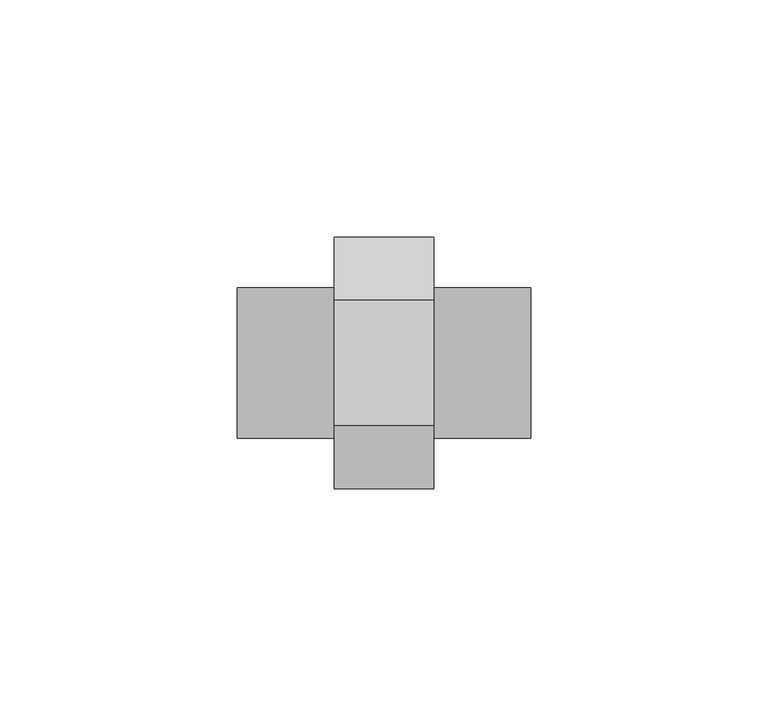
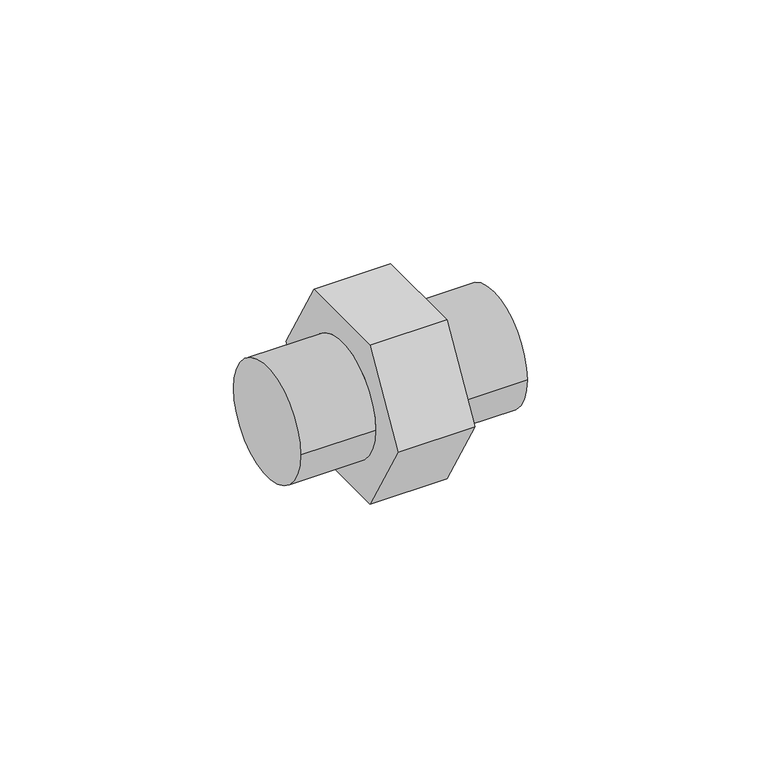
"""IFC4 building model written with IfcOpenShell, lengths in millimetres: pipe fitting geometry, 01011009 : Machones doble rosca."""

import ifcopenshell
import ifcopenshell.guid

model = None  # the IFC model being written
_history = None  # IfcOwnerHistory: only IFC2X3 demands one
_inside = {}  # id of a spatial element -> (the spatial element, [elements in it])
_under = {}  # id of a project, library or spatial element -> (it, [spatial elements below it])
_declared = {}  # id of a project -> (the project, [libraries it declares])
_typed = {}  # id of a type object -> (the type object, [elements of that type])
_made_of = {}  # id of a material, layer set ... -> (it, [elements and type objects made of it])


def new_model(schema):
    """Start an empty IFC model of exactly this schema.

    Asked for "IFC4X3", IfcOpenShell would pick the latest addendum, in which some entities
    have other attributes; the version numbers below select the first issue.
    IFC2X3 requires an IfcOwnerHistory on every rooted entity: one is made here for all.
    """
    global model, _history
    if schema == "IFC4X3":
        model = ifcopenshell.file(schema_version=(4, 3, 0, 0))
    else:
        model = ifcopenshell.file(schema=schema)
    _inside.clear()
    _under.clear()
    _declared.clear()
    _typed.clear()
    _made_of.clear()
    _history = None
    if model.schema == "IFC2X3":
        org = make("IfcOrganization", Name="unknown")
        user = make(
            "IfcPersonAndOrganization",
            ThePerson=make("IfcPerson", FamilyName="unknown"),
            TheOrganization=org,
        )
        app = make(
            "IfcApplication",
            ApplicationDeveloper=org,
            Version="unknown",
            ApplicationFullName="unknown",
            ApplicationIdentifier="unknown",
        )
        _history = make(
            "IfcOwnerHistory",
            OwningUser=user,
            OwningApplication=app,
            ChangeAction="ADDED",
            CreationDate=0,
        )
    return model


def make(cls, **values):
    """One entity of the class cls with the attributes given. An attribute that is None is left unset."""
    return model.create_entity(
        cls, **{name: value for name, value in values.items() if value is not None}
    )


def rooted(cls, **values):
    """An entity with a GlobalId (a new one), such as an element, a storey or a relation."""
    return make(cls, GlobalId=ifcopenshell.guid.new(), OwnerHistory=_history, **values)


def si_unit(unit_type, name, prefix=None):
    """IfcSIUnit, for example si_unit("LENGTHUNIT", "METRE", prefix="MILLI")."""
    return make("IfcSIUnit", UnitType=unit_type, Prefix=prefix, Name=name)


def assignment(units):
    """IfcUnitAssignment: the units of a project."""
    return None if units is None else make("IfcUnitAssignment", Units=units)


def point(xyz):
    """IfcCartesianPoint."""
    return None if xyz is None else make("IfcCartesianPoint", Coordinates=xyz)


def direction(xyz):
    """IfcDirection."""
    return None if xyz is None else make("IfcDirection", DirectionRatios=xyz)


def frame(location, z_axis=None, x_axis=None):
    """IfcAxis2Placement3D, a coordinate frame: its origin and axes. An axis left out is left unset."""
    return make(
        "IfcAxis2Placement3D",
        Location=point(location),
        Axis=direction(z_axis),
        RefDirection=direction(x_axis),
    )


def origin():
    """The frame at (0, 0, 0) with its axes left unset."""
    return frame((0.0, 0.0, 0.0))


def place(relative_to, where):
    """IfcLocalPlacement: puts the frame where relative to a parent placement (None: the world)."""
    return make(
        "IfcLocalPlacement", PlacementRelTo=relative_to, RelativePlacement=where
    )


def context(
    kind, dimensions, precision=None, world=None, true_north=None, identifier=None
):
    """IfcGeometricRepresentationContext, for example the 3D "Model" context."""
    return make(
        "IfcGeometricRepresentationContext",
        ContextIdentifier=identifier,
        ContextType=kind,
        CoordinateSpaceDimension=dimensions,
        Precision=precision,
        WorldCoordinateSystem=world,
        TrueNorth=true_north,
    )


def project(units=None, contexts=None):
    """IfcProject with its units and contexts."""
    return rooted(
        "IfcProject",
        Name="project",
        RepresentationContexts=contexts,
        UnitsInContext=assignment(units),
    )


def spatial(cls, under=None, at=None, **own):
    """A site, building, storey or space (cls), placed at a placement, below another one or the project."""
    s = rooted(cls, ObjectPlacement=at, **own)
    if under is not None:
        _under.setdefault(under.id(), (under, []))[1].append(s)
    return s


def circle_curve(where, radius):
    """IfcCircle in the frame where."""
    return make("IfcCircle", Position=where, Radius=radius)


def shape(context_of_items, identifier, shape_type, items):
    """IfcShapeRepresentation: the items that make up one representation, for example the "Body"."""
    return make(
        "IfcShapeRepresentation",
        ContextOfItems=context_of_items,
        RepresentationIdentifier=identifier,
        RepresentationType=shape_type,
        Items=items,
    )


def source(mapping_origin, context_of_items, identifier, shape_type, items):
    """IfcRepresentationMap: a shape defined once, which mapped items show again and again."""
    return make(
        "IfcRepresentationMap",
        MappingOrigin=mapping_origin,
        MappedRepresentation=shape(context_of_items, identifier, shape_type, items),
    )


def transform(
    local_origin,
    x_axis=None,
    y_axis=None,
    z_axis=None,
    scale=None,
    scale2=None,
    scale3=None,
    uniform=True,
):
    """IfcCartesianTransformationOperator3D, or its non-uniform kind. x_axis, y_axis, z_axis: its Axis1, 2, 3."""
    if uniform:
        return make(
            "IfcCartesianTransformationOperator3D",
            Axis1=direction(x_axis),
            Axis2=direction(y_axis),
            LocalOrigin=point(local_origin),
            Scale=scale,
            Axis3=direction(z_axis),
        )
    return make(
        "IfcCartesianTransformationOperator3DnonUniform",
        Axis1=direction(x_axis),
        Axis2=direction(y_axis),
        LocalOrigin=point(local_origin),
        Scale=scale,
        Axis3=direction(z_axis),
        Scale2=scale2,
        Scale3=scale3,
    )


def mapped(mapping_source, mapping_target):
    """IfcMappedItem: shows the shape of a source again, moved by a transform."""
    return make(
        "IfcMappedItem", MappingSource=mapping_source, MappingTarget=mapping_target
    )


def made_of(thing, what):
    """Note that an element or type object is made of a material, layer set ...; save() writes the relation."""
    if what is not None:
        _made_of.setdefault(what.id(), (what, []))[1].append(thing)
    return thing


def element(
    cls,
    number,
    at=None,
    inside=None,
    cuts=None,
    type_object=None,
    material=None,
    context=None,
    identifier="Body",
    shape_type=None,
    held_by="IfcProductDefinitionShape",
    body=None,
    shapes=None,
    **own,
):
    """One element of the class cls, such as IfcWall. Its Tag is "e" and its number.

    at: its placement. inside: the storey or other place that contains it. cuts: it is an
    opening in that element (IfcRelVoidsElement). A single representation is given by context,
    identifier, shape_type and body (its items); several are given by shapes. held_by: the class
    of the entity that holds the representations. save() writes the other relations.
    """
    e = rooted(cls, Tag="e%d" % number, ObjectPlacement=at, **own)
    if body is not None:
        shapes = [shape(context, identifier, shape_type, body)]
    if shapes is not None:
        e.Representation = make(held_by, Representations=shapes)
    if inside is not None:
        _inside.setdefault(inside.id(), (inside, []))[1].append(e)
    if cuts is not None:
        rooted(
            "IfcRelVoidsElement", RelatingBuildingElement=cuts, RelatedOpeningElement=e
        )
    if type_object is not None:
        _typed.setdefault(type_object.id(), (type_object, []))[1].append(e)
    return made_of(e, material)


def aggregate(whole, parts):
    """IfcRelAggregates: a whole, such as a stair, and the parts it consists of."""
    return rooted("IfcRelAggregates", RelatingObject=whole, RelatedObjects=parts)


def save(model, path):
    """Write the relations noted so far, then the file.

    IfcRelAggregates (storeys below a building ...), IfcRelContainedInSpatialStructure (elements
    in a storey), IfcRelDefinesByType, IfcRelAssociatesMaterial and IfcRelDeclares: one each for
    every whole, place, type object, material and project.
    """
    for whole, parts in _under.values():
        aggregate(whole, parts)
    for where, things in _inside.values():
        rooted(
            "IfcRelContainedInSpatialStructure",
            RelatedElements=things,
            RelatingStructure=where,
        )
    for kind, things in _typed.values():
        rooted("IfcRelDefinesByType", RelatedObjects=things, RelatingType=kind)
    for what, things in _made_of.values():
        rooted("IfcRelAssociatesMaterial", RelatedObjects=things, RelatingMaterial=what)
    for by, libraries in _declared.values():
        rooted("IfcRelDeclares", RelatingContext=by, RelatedDefinitions=libraries)
    model.write(path)


def plane_surface(at):
    """IfcPlane: the flat surface through the origin of the frame at, square to its z axis."""
    return make("IfcPlane", Position=at)


def cylinder_surface(at, radius):
    """IfcCylindricalSurface: all points at the distance radius from the z axis of the frame at."""
    return make("IfcCylindricalSurface", Position=at, Radius=radius)


def advanced_brep(points, edges, surfaces, faces):
    """IfcAdvancedBrep: a solid bounded by faces that lie on surfaces and meet in shared edges.

    An edge is (start, end): straight between two places in points (the first is 0);
    or (start, end, curve); or (start, end, curve, False) where it runs against its curve.
    A face is (place in surfaces, loops), or (place, loops, False) where it looks against
    its surface's normal. A loop lists edges by number (the first is 1), with a minus sign
    where the edge is run from its end to its start. The first loop is the outer one.
    """
    corners = [point(p) for p in points]
    vertices = [make("IfcVertexPoint", VertexGeometry=c) for c in corners]
    made = []
    for start, end, *more in edges:
        made.append(
            make(
                "IfcEdgeCurve",
                EdgeStart=vertices[start],
                EdgeEnd=vertices[end],
                EdgeGeometry=more[0] if more else make("IfcPolyline", Points=[corners[start], corners[end]]),
                SameSense=more[1] if len(more) > 1 else True,
            )
        )
    hull = []
    for where, loops, *sense in faces:
        bounds = []
        for j, loop in enumerate(loops):
            ring = [make("IfcOrientedEdge", EdgeElement=made[abs(k) - 1], Orientation=k > 0) for k in loop]
            bounds.append(
                make(
                    "IfcFaceOuterBound" if j == 0 else "IfcFaceBound",
                    Bound=make("IfcEdgeLoop", EdgeList=ring),
                    Orientation=True,
                )
            )
        hull.append(make("IfcAdvancedFace", Bounds=bounds, FaceSurface=surfaces[where], SameSense=sense[0] if sense else True))
    return make("IfcAdvancedBrep", Outer=make("IfcClosedShell", CfsFaces=hull))


def pipe_fitting_94711aaa(model_context):
    return source(origin(), model_context, "Body", "AdvancedBrep", [
        advanced_brep(
        [(10.5, -13.2790562, 23.0), (10.5, -26.5581124, 0.0), (10.5, -13.2790562, -23.0), (10.5, 13.2790562, -23.0), (10.5, 26.5581124, 0.0), (10.5, 13.2790562, 23.0), (10.5, -15.875, 0.0), (10.5, 15.875, 0.0), (-10.5, -13.2790562, 23.0), (-10.5, 13.2790562, 23.0), (-10.5, 26.5581124, 0.0), (-10.5, 13.2790562, -23.0), (-10.5, -13.2790562, -23.0), (-10.5, -26.5581124, 0.0), (-10.5, 15.875, 0.0), (-10.5, -15.875, 0.0), (-31.0, -15.875, 0.0), (-31.0, 15.875, 0.0), (31.0, -15.875, 0.0), (31.0, 15.875, 0.0)],
        [
            (0, 1),
            (1, 2),
            (2, 3),
            (3, 4),
            (4, 5),
            (5, 0),
            (6, 7, circle_curve(frame((10.5, 0.0, 0.0), z_axis=(-1.0, 0.0, 0.0), x_axis=(0.0, 1.0, 0.0)), 15.875)),
            (7, 6, circle_curve(frame((10.5, 0.0, 0.0), z_axis=(-1.0, 0.0, 0.0), x_axis=(0.0, 1.0, 0.0)), 15.875)),
            (8, 9),
            (9, 10),
            (10, 11),
            (11, 12),
            (12, 13),
            (13, 8),
            (14, 15, circle_curve(frame((-10.5, 0.0, 0.0), z_axis=(1.0, 0.0, 0.0), x_axis=(0.0, 1.0, 0.0)), 15.875)),
            (15, 14, circle_curve(frame((-10.5, 0.0, 0.0), z_axis=(1.0, 0.0, 0.0), x_axis=(0.0, 1.0, 0.0)), 15.875)),
            (0, 8),
            (13, 1),
            (12, 2),
            (11, 3),
            (10, 4),
            (9, 5),
            (16, 17, circle_curve(frame((-31.0, 0.0, 0.0), z_axis=(-1.0, 0.0, 0.0), x_axis=(0.0, 1.0, 0.0)), 15.875)),
            (17, 16, circle_curve(frame((-31.0, 0.0, 0.0), z_axis=(-1.0, 0.0, 0.0), x_axis=(0.0, 1.0, 0.0)), 15.875)),
            (18, 19, circle_curve(frame((31.0, 0.0, 0.0), z_axis=(1.0, 0.0, 0.0), x_axis=(0.0, 1.0, 0.0)), 15.875)),
            (19, 18, circle_curve(frame((31.0, 0.0, 0.0), z_axis=(1.0, 0.0, 0.0), x_axis=(0.0, 1.0, 0.0)), 15.875)),
            (16, 15),
            (14, 17),
            (19, 7),
            (6, 18),
        ],
        [
            plane_surface(frame((10.5, -13.2790562, 23.0), z_axis=(1.0, 0.0, 0.0), x_axis=(0.0, -0.5000000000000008, -0.8660254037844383))),
            plane_surface(frame((-10.5, -13.2790562, 23.0), z_axis=(-1.0, 0.0, 0.0), x_axis=(0.0, 0.5000000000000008, 0.8660254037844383))),
            plane_surface(frame((10.5, -13.2790562, 23.0), z_axis=(0.0, -0.8660254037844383, 0.5000000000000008), x_axis=(-1.0, 0.0, 0.0))),
            plane_surface(frame((10.5, -26.5581124, 0.0), z_axis=(0.0, -0.8660254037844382, -0.500000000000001), x_axis=(-1.0, 0.0, 0.0))),
            plane_surface(frame((10.5, -13.2790562, -23.0), z_axis=(0.0, 0.0, -1.0), x_axis=(-1.0, 0.0, 0.0))),
            plane_surface(frame((10.5, 13.2790562, -23.0), z_axis=(0.0, 0.8660254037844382, -0.5000000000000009), x_axis=(-1.0, 0.0, 0.0))),
            plane_surface(frame((10.5, 26.5581124, 0.0), z_axis=(0.0, 0.8660254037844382, 0.500000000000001), x_axis=(-1.0, 0.0, 0.0))),
            plane_surface(frame((10.5, 13.2790562, 23.0), z_axis=(0.0, 0.0, 1.0), x_axis=(-1.0, 0.0, 0.0))),
            plane_surface(frame((-31.0, 0.0, 0.0), z_axis=(-1.0, 0.0, 0.0), x_axis=(0.0, 0.0, 1.0))),
            plane_surface(frame((31.0, 0.0, 0.0), z_axis=(1.0, 0.0, 0.0), x_axis=(0.0, 0.0, 1.0))),
            cylinder_surface(frame((-31.0, 0.0, 0.0), z_axis=(-1.0, 0.0, 0.0), x_axis=(0.0, 1.0, 0.0)), 15.875),
        ],
        [
            (0, [[1, 2, 3, 4, 5, 6], [7, 8]]),
            (1, [[9, 10, 11, 12, 13, 14], [15, 16]]),
            (2, [[-1, 17, -14, 18]]),
            (3, [[-2, -18, -13, 19]]),
            (4, [[-3, -19, -12, 20]]),
            (5, [[-4, -20, -11, 21]]),
            (6, [[-5, -21, -10, 22]]),
            (7, [[-6, -22, -9, -17]]),
            (8, [[23, 24]]),
            (9, [[25, 26]]),
            (10, [[-23, 27, -15, 28]]),
            (10, [[-26, 29, -7, 30]]),
            (10, [[-24, -28, -16, -27]]),
            (10, [[-25, -30, -8, -29]]),
        ],
    ),
    ])


if __name__ == "__main__":
    model = new_model("IFC4")
    model_context = context("Model", 3, world=origin())
    ifc_project = project(units=[si_unit("LENGTHUNIT", "METRE", prefix="MILLI")], contexts=[model_context])
    site = spatial("IfcSite", under=ifc_project)
    building = spatial("IfcBuilding", under=site)
    placement = place(None, origin())
    pipe_fitting_shape = pipe_fitting_94711aaa(model_context)
    element("IfcPipeFitting", 1, ObjectType="01011009 : Machones doble rosca", at=placement, inside=building, context=model_context, shape_type="MappedRepresentation", body=[
        mapped(pipe_fitting_shape, transform((0.0, 0.0, 0.0), x_axis=(1.0, 0.0, 0.0), y_axis=(0.0, 1.0, 0.0), z_axis=(0.0, 0.0, 1.0))),
    ])
    save(model, "model.ifc")
